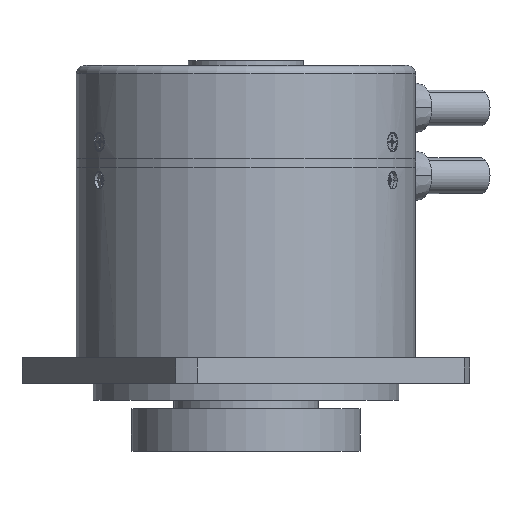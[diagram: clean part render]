
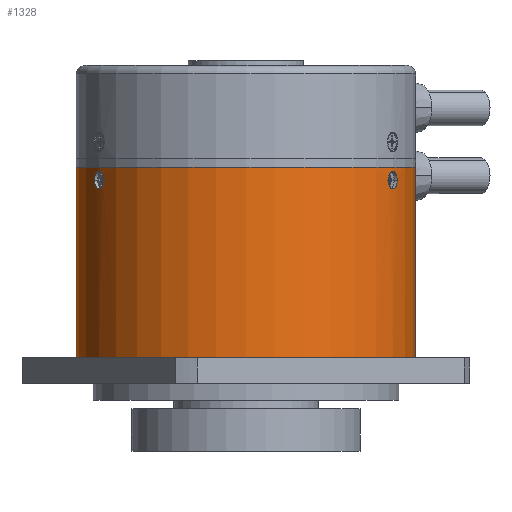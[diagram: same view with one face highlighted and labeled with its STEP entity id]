
A CAD part, front view. The second image highlights one B-rep face of the part: STEP entity #1328.
In plain terms, the highlighted cylindrical face has radius 20 mm (diameter 40 mm), a partial arc.
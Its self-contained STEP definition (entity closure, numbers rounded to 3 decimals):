
#1328=ADVANCED_FACE('',(#2408,#2409,#2410),#2411,.T.);
#2408=FACE_BOUND('',#3610,.T.);
#2409=FACE_BOUND('',#3611,.T.);
#2410=FACE_OUTER_BOUND('',#3612,.T.);
#2411=CYLINDRICAL_SURFACE('',#3613,20.0);
#3610=EDGE_LOOP('',(#7565,#7566));
#3611=EDGE_LOOP('',(#7567,#7568));
#3612=EDGE_LOOP('',(#7569,#7570,#7571,#7572,#7573,#7574));
#3613=AXIS2_PLACEMENT_3D('',#7575,#7576,#7577);
#7565=ORIENTED_EDGE('',*,*,#9199,.T.);
#7566=ORIENTED_EDGE('',*,*,#9200,.T.);
#7567=ORIENTED_EDGE('',*,*,#9201,.T.);
#7568=ORIENTED_EDGE('',*,*,#9202,.T.);
#7569=ORIENTED_EDGE('',*,*,#9203,.F.);
#7570=ORIENTED_EDGE('',*,*,#9204,.T.);
#7571=ORIENTED_EDGE('',*,*,#9205,.T.);
#7572=ORIENTED_EDGE('',*,*,#9206,.T.);
#7573=ORIENTED_EDGE('',*,*,#9207,.F.);
#7574=ORIENTED_EDGE('',*,*,#9208,.F.);
#7575=CARTESIAN_POINT('',(0.0,0.0,27.45));
#7576=DIRECTION('',(0.0,-0.0,1.0));
#7577=DIRECTION('',(-1.0,0.0,0.0));
#9199=EDGE_CURVE('',#11335,#11336,#11337,.T.);
#9200=EDGE_CURVE('',#11336,#11335,#11338,.T.);
#9201=EDGE_CURVE('',#11339,#11340,#11341,.T.);
#9202=EDGE_CURVE('',#11340,#11339,#11342,.T.);
#9203=EDGE_CURVE('',#11343,#11344,#11345,.T.);
#9204=EDGE_CURVE('',#11343,#11346,#11347,.T.);
#9205=EDGE_CURVE('',#11346,#11348,#11349,.T.);
#9206=EDGE_CURVE('',#11348,#11350,#11351,.T.);
#9207=EDGE_CURVE('',#11352,#11350,#11353,.T.);
#9208=EDGE_CURVE('',#11344,#11352,#11354,.T.);
#11335=VERTEX_POINT('',#14658);
#11336=VERTEX_POINT('',#14659);
#11337=B_SPLINE_CURVE_WITH_KNOTS('',3,(#14660,#14661,#14662,#14663,#14664,#14665,#14666,#14667,#14668,#14669,#14670,#14671,#14672,#14673,#14674,#14675,#14676,#14677,#14678,#14679),.UNSPECIFIED.,.F.,.F.,(4,2,2,2,2,2,2,2,2,4),(0.0,0.,0.001,0.001,0.002,0.002,0.002,0.003,0.003,0.003),.UNSPECIFIED.);
#11338=B_SPLINE_CURVE_WITH_KNOTS('',3,(#14680,#14681,#14682,#14683,#14684,#14685,#14686,#14687,#14688,#14689,#14690,#14691,#14692,#14693,#14694,#14695),.UNSPECIFIED.,.F.,.F.,(4,2,2,2,2,2,2,4),(0.003,0.004,0.004,0.005,0.005,0.005,0.006,0.007),.UNSPECIFIED.);
#11339=VERTEX_POINT('',#14696);
#11340=VERTEX_POINT('',#14697);
#11341=B_SPLINE_CURVE_WITH_KNOTS('',3,(#14698,#14699,#14700,#14701,#14702,#14703,#14704,#14705,#14706,#14707,#14708,#14709,#14710,#14711,#14712,#14713,#14714,#14715,#14716,#14717),.UNSPECIFIED.,.F.,.F.,(4,2,2,2,2,2,2,2,2,4),(0.0,0.,0.001,0.001,0.002,0.002,0.002,0.003,0.003,0.003),.UNSPECIFIED.);
#11342=B_SPLINE_CURVE_WITH_KNOTS('',3,(#14718,#14719,#14720,#14721,#14722,#14723,#14724,#14725,#14726,#14727,#14728,#14729,#14730,#14731,#14732,#14733),.UNSPECIFIED.,.F.,.F.,(4,2,2,2,2,2,2,4),(0.003,0.004,0.004,0.005,0.005,0.005,0.006,0.007),.UNSPECIFIED.);
#11343=VERTEX_POINT('',#14734);
#11344=VERTEX_POINT('',#14735);
#11345=LINE('',#14736,#14737);
#11346=VERTEX_POINT('',#14738);
#11347=CIRCLE('',#14739,20.0);
#11348=VERTEX_POINT('',#14740);
#11349=CIRCLE('',#14741,20.0);
#11350=VERTEX_POINT('',#14742);
#11351=CIRCLE('',#14743,20.0);
#11352=VERTEX_POINT('',#14744);
#11353=LINE('',#14745,#14746);
#11354=CIRCLE('',#14747,20.0);
#14658=CARTESIAN_POINT('',(16.772,-10.896,25.95));
#14659=CARTESIAN_POINT('',(17.822,-9.077,25.95));
#14660=CARTESIAN_POINT('',(16.772,-10.896,25.95));
#14661=CARTESIAN_POINT('',(16.772,-10.896,26.089));
#14662=CARTESIAN_POINT('',(16.787,-10.873,26.225));
#14663=CARTESIAN_POINT('',(16.844,-10.784,26.479));
#14664=CARTESIAN_POINT('',(16.886,-10.718,26.596));
#14665=CARTESIAN_POINT('',(16.989,-10.554,26.789));
#14666=CARTESIAN_POINT('',(17.051,-10.454,26.868));
#14667=CARTESIAN_POINT('',(17.181,-10.238,26.972));
#14668=CARTESIAN_POINT('',(17.252,-10.119,27.));
#14669=CARTESIAN_POINT('',(17.389,-9.882,27.));
#14670=CARTESIAN_POINT('',(17.456,-9.762,26.973));
#14671=CARTESIAN_POINT('',(17.579,-9.539,26.868));
#14672=CARTESIAN_POINT('',(17.634,-9.437,26.791));
#14673=CARTESIAN_POINT('',(17.726,-9.264,26.595));
#14674=CARTESIAN_POINT('',(17.761,-9.195,26.479));
#14675=CARTESIAN_POINT('',(17.809,-9.101,26.225));
#14676=CARTESIAN_POINT('',(17.822,-9.077,26.087));
#14677=CARTESIAN_POINT('',(17.822,-9.077,25.95));
#14678=CARTESIAN_POINT('',(17.822,-9.077,25.95));
#14679=CARTESIAN_POINT('',(17.822,-9.077,25.95));
#14680=CARTESIAN_POINT('',(17.822,-9.077,25.95));
#14681=CARTESIAN_POINT('',(17.822,-9.077,25.813));
#14682=CARTESIAN_POINT('',(17.809,-9.101,25.675));
#14683=CARTESIAN_POINT('',(17.761,-9.194,25.422));
#14684=CARTESIAN_POINT('',(17.725,-9.264,25.305));
#14685=CARTESIAN_POINT('',(17.635,-9.435,25.111));
#14686=CARTESIAN_POINT('',(17.58,-9.538,25.033));
#14687=CARTESIAN_POINT('',(17.457,-9.76,24.928));
#14688=CARTESIAN_POINT('',(17.39,-9.879,24.9));
#14689=CARTESIAN_POINT('',(17.252,-10.119,24.9));
#14690=CARTESIAN_POINT('',(17.182,-10.236,24.927));
#14691=CARTESIAN_POINT('',(17.051,-10.454,25.032));
#14692=CARTESIAN_POINT('',(16.989,-10.553,25.11));
#14693=CARTESIAN_POINT('',(16.834,-10.8,25.401));
#14694=CARTESIAN_POINT('',(16.772,-10.896,25.672));
#14695=CARTESIAN_POINT('',(16.772,-10.896,25.95));
#14696=CARTESIAN_POINT('',(-17.822,-9.077,25.95));
#14697=CARTESIAN_POINT('',(-16.772,-10.896,25.95));
#14698=CARTESIAN_POINT('',(-17.822,-9.077,25.95));
#14699=CARTESIAN_POINT('',(-17.822,-9.077,26.089));
#14700=CARTESIAN_POINT('',(-17.809,-9.101,26.225));
#14701=CARTESIAN_POINT('',(-17.761,-9.195,26.479));
#14702=CARTESIAN_POINT('',(-17.725,-9.264,26.596));
#14703=CARTESIAN_POINT('',(-17.634,-9.436,26.789));
#14704=CARTESIAN_POINT('',(-17.579,-9.539,26.868));
#14705=CARTESIAN_POINT('',(-17.457,-9.76,26.972));
#14706=CARTESIAN_POINT('',(-17.389,-9.881,27.));
#14707=CARTESIAN_POINT('',(-17.252,-10.118,27.));
#14708=CARTESIAN_POINT('',(-17.182,-10.237,26.973));
#14709=CARTESIAN_POINT('',(-17.051,-10.454,26.868));
#14710=CARTESIAN_POINT('',(-16.99,-10.553,26.791));
#14711=CARTESIAN_POINT('',(-16.885,-10.719,26.595));
#14712=CARTESIAN_POINT('',(-16.844,-10.784,26.479));
#14713=CARTESIAN_POINT('',(-16.787,-10.873,26.225));
#14714=CARTESIAN_POINT('',(-16.772,-10.895,26.087));
#14715=CARTESIAN_POINT('',(-16.772,-10.896,25.95));
#14716=CARTESIAN_POINT('',(-16.772,-10.896,25.95));
#14717=CARTESIAN_POINT('',(-16.772,-10.896,25.95));
#14718=CARTESIAN_POINT('',(-16.772,-10.896,25.95));
#14719=CARTESIAN_POINT('',(-16.772,-10.896,25.813));
#14720=CARTESIAN_POINT('',(-16.787,-10.872,25.675));
#14721=CARTESIAN_POINT('',(-16.843,-10.785,25.422));
#14722=CARTESIAN_POINT('',(-16.885,-10.719,25.305));
#14723=CARTESIAN_POINT('',(-16.988,-10.555,25.111));
#14724=CARTESIAN_POINT('',(-17.05,-10.456,25.033));
#14725=CARTESIAN_POINT('',(-17.181,-10.238,24.928));
#14726=CARTESIAN_POINT('',(-17.251,-10.121,24.9));
#14727=CARTESIAN_POINT('',(-17.389,-9.881,24.9));
#14728=CARTESIAN_POINT('',(-17.456,-9.762,24.927));
#14729=CARTESIAN_POINT('',(-17.579,-9.539,25.032));
#14730=CARTESIAN_POINT('',(-17.634,-9.436,25.11));
#14731=CARTESIAN_POINT('',(-17.77,-9.179,25.401));
#14732=CARTESIAN_POINT('',(-17.822,-9.077,25.672));
#14733=CARTESIAN_POINT('',(-17.822,-9.077,25.95));
#14734=CARTESIAN_POINT('',(-20.0,0.,5.0));
#14735=CARTESIAN_POINT('',(-20.0,0.,27.45));
#14736=CARTESIAN_POINT('',(-20.0,0.,27.45));
#14737=VECTOR('',#17255,1.0);
#14738=CARTESIAN_POINT('',(-17.321,-10.0,5.0));
#14739=AXIS2_PLACEMENT_3D('',#17256,#17257,#17258);
#14740=CARTESIAN_POINT('',(10.0,-17.321,5.0));
#14741=AXIS2_PLACEMENT_3D('',#17259,#17260,#17261);
#14742=CARTESIAN_POINT('',(20.0,0.,5.0));
#14743=AXIS2_PLACEMENT_3D('',#17262,#17263,#17264);
#14744=CARTESIAN_POINT('',(20.0,0.,27.45));
#14745=CARTESIAN_POINT('',(20.0,0.,27.45));
#14746=VECTOR('',#17265,1.0);
#14747=AXIS2_PLACEMENT_3D('',#17266,#17267,#17268);
#17255=DIRECTION('',(0.0,-0.0,1.0));
#17256=CARTESIAN_POINT('',(0.0,0.0,5.0));
#17257=DIRECTION('',(0.0,0.0,1.0));
#17258=DIRECTION('',(1.0,0.0,0.0));
#17259=CARTESIAN_POINT('',(0.0,0.0,5.0));
#17260=DIRECTION('',(0.0,0.0,1.0));
#17261=DIRECTION('',(1.0,0.0,0.0));
#17262=CARTESIAN_POINT('',(0.0,0.0,5.0));
#17263=DIRECTION('',(0.0,0.0,1.0));
#17264=DIRECTION('',(1.0,0.0,0.0));
#17265=DIRECTION('',(0.0,-0.0,-1.0));
#17266=CARTESIAN_POINT('',(0.0,0.0,27.45));
#17267=DIRECTION('',(0.0,0.0,1.0));
#17268=DIRECTION('',(1.0,0.0,0.0));
